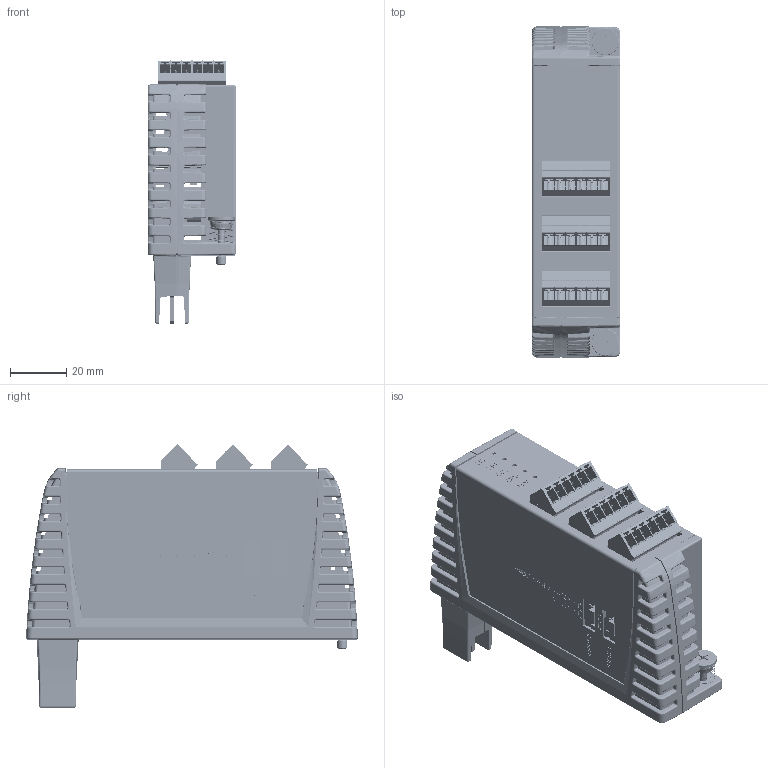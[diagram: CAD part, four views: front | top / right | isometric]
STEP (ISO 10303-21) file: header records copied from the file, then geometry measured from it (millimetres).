
FILE_DESCRIPTION (( 'STEP AP214' ), '1' );
FILE_NAME ('GMSG.STEP', '2016-03-30T11:32:53', ( 'Network Administration' ), ( 'Red Lion Controls Inc.' ), 'SwSTEP 2.0', 'SolidWorks 2014', '' );
FILE_SCHEMA (( 'AUTOMOTIVE_DESIGN' ));
Length unit declared in the file: millimetre
Products named in the file (11): 92010A112_92010A112; PEM F-632-1; m4900a_sg1r_main_2013-10-11; PEM SCBR-632-8 ZI; HWSMEF06_91771A143; McMC 90692A086; McMC 90402A106_90402A106; CV514900_MODULE SHEET METAL WRAP_GMSG1 WRAPPER - CV510509; CA503100_MODULE CASE, RIGHT HALF; CA503000_MODULE CASE, LEFT HALF; GMSG
Assembly tree (16 placements, depth 2):
  GMSG
    CA503000_MODULE CASE, LEFT HALF
    CA503100_MODULE CASE, RIGHT HALF
    CV514900_MODULE SHEET METAL WRAP_GMSG1 WRAPPER - CV510509
    McMC 90402A106_90402A106  x2
    McMC 90692A086  x4
    HWSMEF06_91771A143  x2
    PEM SCBR-632-8 ZI  x2
    m4900a_sg1r_main_2013-10-11
    PEM F-632-1
    92010A112_92010A112
Bounding box: 31.5 x 117.84 x 93.43 mm (x, y, z)
Volume: 41606.7 mm3; surface area: 92907.5 mm2
Topology: 17 solids, 3080 shells, 14360 faces, 38637 edges, 28258 vertices
Faces by surface type: plane 9708, cylinder 2119, bspline 1639, torus 404, cone 376, sphere 114
Entity records: 530972 total; most frequent: CARTESIAN_POINT 184982, ORIENTED_EDGE 65044, DIRECTION 52151, EDGE_CURVE 37699, VERTEX_POINT 27717, LINE 19013, VECTOR 19013, AXIS2_PLACEMENT_3D 16569
